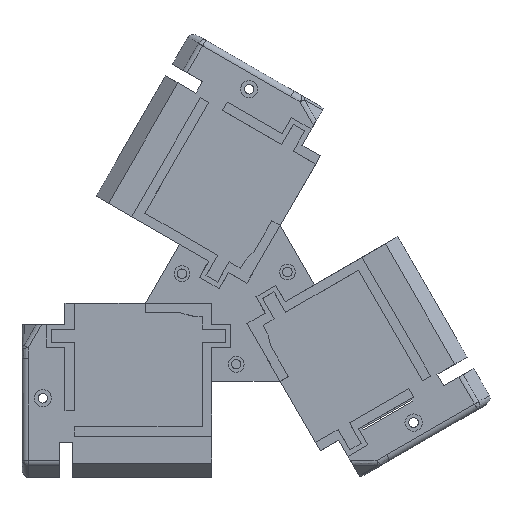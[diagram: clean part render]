
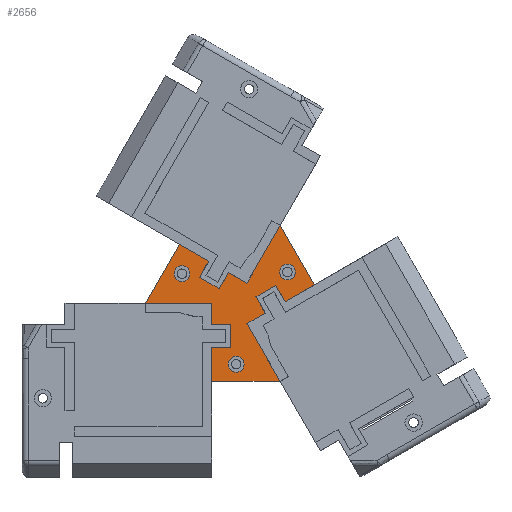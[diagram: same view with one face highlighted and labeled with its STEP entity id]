
A CAD part, top view. The second image highlights one B-rep face of the part: STEP entity #2656.
In plain terms, the highlighted planar face has unit normal (0, 0, 1).
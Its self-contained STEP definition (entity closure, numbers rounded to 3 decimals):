
#253 = VERTEX_POINT('',#254);
#254 = CARTESIAN_POINT('',(-28.4,0.,5.));
#1238 = VERTEX_POINT('',#1239);
#1239 = CARTESIAN_POINT('',(-7.4,-24.595,5.));
#1245 = EDGE_CURVE('',#1246,#1238,#1248,.T.);
#1246 = VERTEX_POINT('',#1247);
#1247 = CARTESIAN_POINT('',(-7.4,-13.9,5.));
#1248 = LINE('',#1249,#1250);
#1249 = CARTESIAN_POINT('',(-7.4,-13.9,5.));
#1250 = VECTOR('',#1251,1.);
#1251 = DIRECTION('',(0.,-1.,0.));
#2639 = VERTEX_POINT('',#2640);
#2640 = CARTESIAN_POINT('',(14.2,-24.595,5.));
#2646 = EDGE_CURVE('',#1238,#2639,#2647,.T.);
#2647 = LINE('',#2648,#2649);
#2648 = CARTESIAN_POINT('',(-7.4,-24.595,5.));
#2649 = VECTOR('',#2650,1.);
#2650 = DIRECTION('',(1.,0.,0.));
#2656 = ADVANCED_FACE('',(#2657,#2809,#2820,#2831),#2842,.T.);
#2657 = FACE_BOUND('',#2658,.T.);
#2658 = EDGE_LOOP('',(#2659,#2669,#2677,#2685,#2693,#2701,#2709,#2717,
    #2723,#2731,#2739,#2747,#2755,#2761,#2762,#2763,#2771,#2779,#2787,
    #2795,#2803));
#2659 = ORIENTED_EDGE('',*,*,#2660,.T.);
#2660 = EDGE_CURVE('',#2661,#2663,#2665,.T.);
#2661 = VERTEX_POINT('',#2662);
#2662 = CARTESIAN_POINT('',(25.,5.889,5.));
#2663 = VERTEX_POINT('',#2664);
#2664 = CARTESIAN_POINT('',(14.2,24.595,5.));
#2665 = LINE('',#2666,#2667);
#2666 = CARTESIAN_POINT('',(25.,5.889,5.));
#2667 = VECTOR('',#2668,1.);
#2668 = DIRECTION('',(-0.5,0.866,0.));
#2669 = ORIENTED_EDGE('',*,*,#2670,.F.);
#2670 = EDGE_CURVE('',#2671,#2663,#2673,.T.);
#2671 = VERTEX_POINT('',#2672);
#2672 = CARTESIAN_POINT('',(3.7,6.409,5.));
#2673 = LINE('',#2674,#2675);
#2674 = CARTESIAN_POINT('',(3.7,6.409,5.));
#2675 = VECTOR('',#2676,1.);
#2676 = DIRECTION('',(0.5,0.866,0.));
#2677 = ORIENTED_EDGE('',*,*,#2678,.F.);
#2678 = EDGE_CURVE('',#2679,#2671,#2681,.T.);
#2679 = VERTEX_POINT('',#2680);
#2680 = CARTESIAN_POINT('',(-2.102,9.759,5.));
#2681 = LINE('',#2682,#2683);
#2682 = CARTESIAN_POINT('',(-0.803,9.009,5.));
#2683 = VECTOR('',#2684,1.);
#2684 = DIRECTION('',(0.866,-0.5,0.));
#2685 = ORIENTED_EDGE('',*,*,#2686,.T.);
#2686 = EDGE_CURVE('',#2679,#2687,#2689,.T.);
#2687 = VERTEX_POINT('',#2688);
#2688 = CARTESIAN_POINT('',(-5.052,4.649,5.));
#2689 = LINE('',#2690,#2691);
#2690 = CARTESIAN_POINT('',(-2.102,9.759,5.));
#2691 = VECTOR('',#2692,1.);
#2692 = DIRECTION('',(-0.5,-0.866,0.));
#2693 = ORIENTED_EDGE('',*,*,#2694,.T.);
#2694 = EDGE_CURVE('',#2687,#2695,#2697,.T.);
#2695 = VERTEX_POINT('',#2696);
#2696 = CARTESIAN_POINT('',(-11.288,8.249,5.));
#2697 = LINE('',#2698,#2699);
#2698 = CARTESIAN_POINT('',(-5.052,4.649,5.));
#2699 = VECTOR('',#2700,1.);
#2700 = DIRECTION('',(-0.866,0.5,0.));
#2701 = ORIENTED_EDGE('',*,*,#2702,.T.);
#2702 = EDGE_CURVE('',#2695,#2703,#2705,.T.);
#2703 = VERTEX_POINT('',#2704);
#2704 = CARTESIAN_POINT('',(-8.338,13.359,5.));
#2705 = LINE('',#2706,#2707);
#2706 = CARTESIAN_POINT('',(-11.288,8.249,5.));
#2707 = VECTOR('',#2708,1.);
#2708 = DIRECTION('',(0.5,0.866,0.));
#2709 = ORIENTED_EDGE('',*,*,#2710,.T.);
#2710 = EDGE_CURVE('',#2703,#2711,#2713,.T.);
#2711 = VERTEX_POINT('',#2712);
#2712 = CARTESIAN_POINT('',(-17.6,18.706,5.));
#2713 = LINE('',#2714,#2715);
#2714 = CARTESIAN_POINT('',(-8.338,13.359,5.));
#2715 = VECTOR('',#2716,1.);
#2716 = DIRECTION('',(-0.866,0.5,0.));
#2717 = ORIENTED_EDGE('',*,*,#2718,.T.);
#2718 = EDGE_CURVE('',#2711,#253,#2719,.T.);
#2719 = LINE('',#2720,#2721);
#2720 = CARTESIAN_POINT('',(-17.6,18.706,5.));
#2721 = VECTOR('',#2722,1.);
#2722 = DIRECTION('',(-0.5,-0.866,0.));
#2723 = ORIENTED_EDGE('',*,*,#2724,.F.);
#2724 = EDGE_CURVE('',#2725,#253,#2727,.T.);
#2725 = VERTEX_POINT('',#2726);
#2726 = CARTESIAN_POINT('',(-7.4,0.,5.));
#2727 = LINE('',#2728,#2729);
#2728 = CARTESIAN_POINT('',(-7.4,0.,5.));
#2729 = VECTOR('',#2730,1.);
#2730 = DIRECTION('',(-1.,0.,0.));
#2731 = ORIENTED_EDGE('',*,*,#2732,.F.);
#2732 = EDGE_CURVE('',#2733,#2725,#2735,.T.);
#2733 = VERTEX_POINT('',#2734);
#2734 = CARTESIAN_POINT('',(-7.4,-6.7,5.));
#2735 = LINE('',#2736,#2737);
#2736 = CARTESIAN_POINT('',(-7.4,-5.2,5.));
#2737 = VECTOR('',#2738,1.);
#2738 = DIRECTION('',(0.,1.,0.));
#2739 = ORIENTED_EDGE('',*,*,#2740,.T.);
#2740 = EDGE_CURVE('',#2733,#2741,#2743,.T.);
#2741 = VERTEX_POINT('',#2742);
#2742 = CARTESIAN_POINT('',(-1.5,-6.7,5.));
#2743 = LINE('',#2744,#2745);
#2744 = CARTESIAN_POINT('',(-7.4,-6.7,5.));
#2745 = VECTOR('',#2746,1.);
#2746 = DIRECTION('',(1.,0.,0.));
#2747 = ORIENTED_EDGE('',*,*,#2748,.T.);
#2748 = EDGE_CURVE('',#2741,#2749,#2751,.T.);
#2749 = VERTEX_POINT('',#2750);
#2750 = CARTESIAN_POINT('',(-1.5,-13.9,5.));
#2751 = LINE('',#2752,#2753);
#2752 = CARTESIAN_POINT('',(-1.5,-6.7,5.));
#2753 = VECTOR('',#2754,1.);
#2754 = DIRECTION('',(0.,-1.,0.));
#2755 = ORIENTED_EDGE('',*,*,#2756,.T.);
#2756 = EDGE_CURVE('',#2749,#1246,#2757,.T.);
#2757 = LINE('',#2758,#2759);
#2758 = CARTESIAN_POINT('',(-1.5,-13.9,5.));
#2759 = VECTOR('',#2760,1.);
#2760 = DIRECTION('',(-1.,0.,0.));
#2761 = ORIENTED_EDGE('',*,*,#1245,.T.);
#2762 = ORIENTED_EDGE('',*,*,#2646,.T.);
#2763 = ORIENTED_EDGE('',*,*,#2764,.F.);
#2764 = EDGE_CURVE('',#2765,#2639,#2767,.T.);
#2765 = VERTEX_POINT('',#2766);
#2766 = CARTESIAN_POINT('',(3.7,-6.409,5.));
#2767 = LINE('',#2768,#2769);
#2768 = CARTESIAN_POINT('',(3.7,-6.409,5.));
#2769 = VECTOR('',#2770,1.);
#2770 = DIRECTION('',(0.5,-0.866,0.));
#2771 = ORIENTED_EDGE('',*,*,#2772,.F.);
#2772 = EDGE_CURVE('',#2773,#2765,#2775,.T.);
#2773 = VERTEX_POINT('',#2774);
#2774 = CARTESIAN_POINT('',(9.502,-3.059,5.));
#2775 = LINE('',#2776,#2777);
#2776 = CARTESIAN_POINT('',(8.203,-3.809,5.));
#2777 = VECTOR('',#2778,1.);
#2778 = DIRECTION('',(-0.866,-0.5,0.));
#2779 = ORIENTED_EDGE('',*,*,#2780,.T.);
#2780 = EDGE_CURVE('',#2773,#2781,#2783,.T.);
#2781 = VERTEX_POINT('',#2782);
#2782 = CARTESIAN_POINT('',(6.552,2.051,5.));
#2783 = LINE('',#2784,#2785);
#2784 = CARTESIAN_POINT('',(9.502,-3.059,5.));
#2785 = VECTOR('',#2786,1.);
#2786 = DIRECTION('',(-0.5,0.866,0.));
#2787 = ORIENTED_EDGE('',*,*,#2788,.T.);
#2788 = EDGE_CURVE('',#2781,#2789,#2791,.T.);
#2789 = VERTEX_POINT('',#2790);
#2790 = CARTESIAN_POINT('',(12.788,5.651,5.));
#2791 = LINE('',#2792,#2793);
#2792 = CARTESIAN_POINT('',(6.552,2.051,5.));
#2793 = VECTOR('',#2794,1.);
#2794 = DIRECTION('',(0.866,0.5,0.));
#2795 = ORIENTED_EDGE('',*,*,#2796,.T.);
#2796 = EDGE_CURVE('',#2789,#2797,#2799,.T.);
#2797 = VERTEX_POINT('',#2798);
#2798 = CARTESIAN_POINT('',(15.738,0.541,5.));
#2799 = LINE('',#2800,#2801);
#2800 = CARTESIAN_POINT('',(12.788,5.651,5.));
#2801 = VECTOR('',#2802,1.);
#2802 = DIRECTION('',(0.5,-0.866,0.));
#2803 = ORIENTED_EDGE('',*,*,#2804,.T.);
#2804 = EDGE_CURVE('',#2797,#2661,#2805,.T.);
#2805 = LINE('',#2806,#2807);
#2806 = CARTESIAN_POINT('',(15.738,0.541,5.));
#2807 = VECTOR('',#2808,1.);
#2808 = DIRECTION('',(0.866,0.5,0.));
#2809 = FACE_BOUND('',#2810,.T.);
#2810 = EDGE_LOOP('',(#2811));
#2811 = ORIENTED_EDGE('',*,*,#2812,.F.);
#2812 = EDGE_CURVE('',#2813,#2813,#2815,.T.);
#2813 = VERTEX_POINT('',#2814);
#2814 = CARTESIAN_POINT('',(-0.937,-17.082,5.));
#2815 = CIRCLE('',#2816,2.5);
#2816 = AXIS2_PLACEMENT_3D('',#2817,#2818,#2819);
#2817 = CARTESIAN_POINT('',(0.313,-19.248,5.));
#2818 = DIRECTION('',(0.,0.,1.));
#2819 = DIRECTION('',(-0.5,0.866,0.));
#2820 = FACE_BOUND('',#2821,.T.);
#2821 = EDGE_LOOP('',(#2822));
#2822 = ORIENTED_EDGE('',*,*,#2823,.F.);
#2823 = EDGE_CURVE('',#2824,#2824,#2826,.T.);
#2824 = VERTEX_POINT('',#2825);
#2825 = CARTESIAN_POINT('',(-14.325,9.353,5.));
#2826 = CIRCLE('',#2827,2.5);
#2827 = AXIS2_PLACEMENT_3D('',#2828,#2829,#2830);
#2828 = CARTESIAN_POINT('',(-16.825,9.353,5.));
#2829 = DIRECTION('',(0.,0.,1.));
#2830 = DIRECTION('',(1.,0.,0.));
#2831 = FACE_BOUND('',#2832,.T.);
#2832 = EDGE_LOOP('',(#2833));
#2833 = ORIENTED_EDGE('',*,*,#2834,.F.);
#2834 = EDGE_CURVE('',#2835,#2835,#2837,.T.);
#2835 = VERTEX_POINT('',#2836);
#2836 = CARTESIAN_POINT('',(15.263,7.729,5.));
#2837 = CIRCLE('',#2838,2.5);
#2838 = AXIS2_PLACEMENT_3D('',#2839,#2840,#2841);
#2839 = CARTESIAN_POINT('',(16.513,9.894,5.));
#2840 = DIRECTION('',(0.,0.,1.));
#2841 = DIRECTION('',(-0.5,-0.866,0.));
#2842 = PLANE('',#2843);
#2843 = AXIS2_PLACEMENT_3D('',#2844,#2845,#2846);
#2844 = CARTESIAN_POINT('',(0.,0.,5.));
#2845 = DIRECTION('',(0.,0.,1.));
#2846 = DIRECTION('',(1.,0.,0.));
